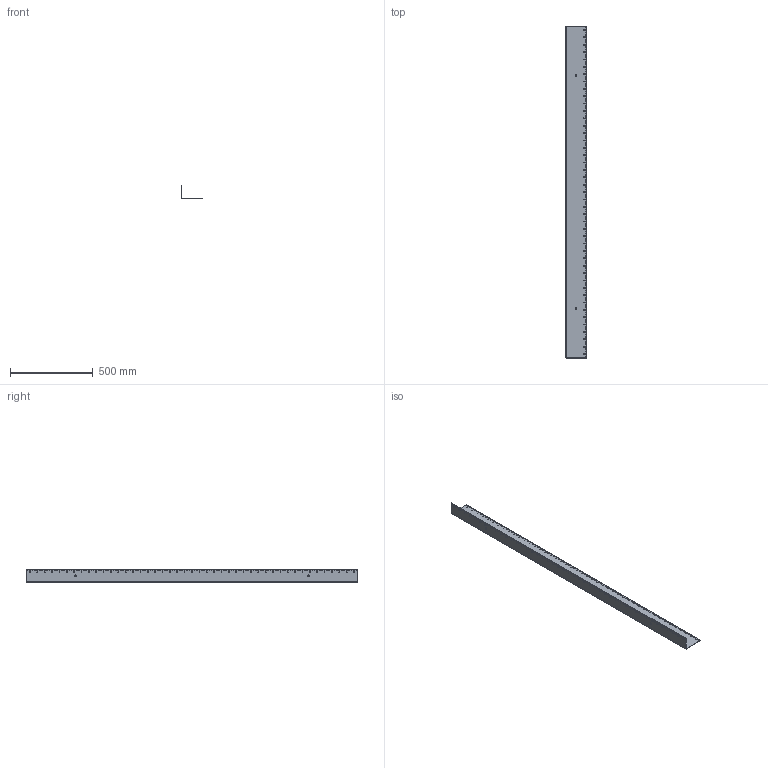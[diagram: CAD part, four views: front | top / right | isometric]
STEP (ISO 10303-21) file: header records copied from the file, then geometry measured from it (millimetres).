
FILE_DESCRIPTION(('2200 mm Tapped Hole Rack Angle'),'2;1');
FILE_NAME('D:\a00506\era192321tpl.stp','2003-06-16T14:52:57',( 'Rick Hagglund'),('Hoffman Enclosures Inc.'),'I-DEAS Master Series 9', 'UNIX','Yes');
FILE_SCHEMA(('AUTOMOTIVE_DESIGN { 1 0 10303 214 0 1 1 1 }'));
Length unit declared in the file: inch
Products named in the file (1): 87565304
Bounding box: 128.91 x 2003.4 x 78.11 mm (x, y, z)
Volume: 988383.5 mm3; surface area: 825724.6 mm2
Topology: 1 solids, 1 shells, 378 faces, 1120 edges, 744 vertices
Faces by surface type: bspline 378
Entity records: 18927 total; most frequent: CARTESIAN_POINT 11785, ORIENTED_EDGE 2240, EDGE_CURVE 1120, EDGE_LOOP 1106, VERTEX_POINT 744, FACE_BOUND 728, QUASI_UNIFORM_CURVE 378, FACE_OUTER_BOUND 378
